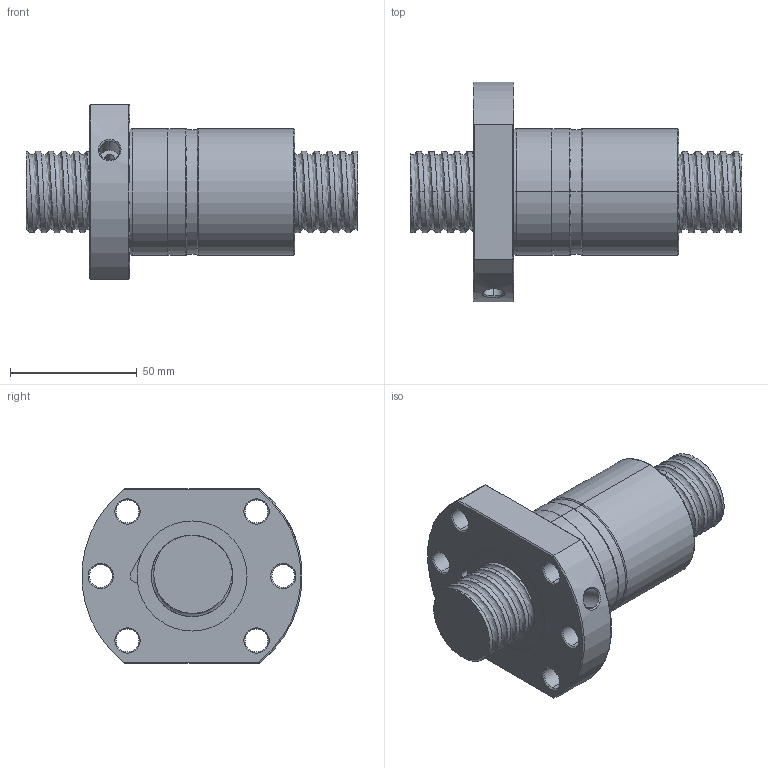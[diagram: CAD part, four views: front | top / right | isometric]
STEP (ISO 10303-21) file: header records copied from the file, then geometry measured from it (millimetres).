
FILE_DESCRIPTION (( 'STEP AP214' ), '1' );
FILE_NAME ('FDDC03205T4-C-C.STEP', '2010-07-06T03:19:07', ( 'XPAUTO' ), ( 'XPAUTO' ), 'SwSTEP 2.0', 'SolidWorks 2007', '' );
FILE_SCHEMA (( 'AUTOMOTIVE_DESIGN' ));
Length unit declared in the file: millimetre
Products named in the file (3): FDDC03205T4-C-C; FDDC03205T4-C-C.sldasm-Part-2_預設; FDDC03205T4-C-C.sldasm-Part-1_預設
Assembly tree (2 placements, depth 2):
  FDDC03205T4-C-C
    FDDC03205T4-C-C.sldasm-Part-2_預設
    FDDC03205T4-C-C.sldasm-Part-1_預設
Bounding box: 131 x 86.7 x 69 mm (x, y, z)
Volume: 236009 mm3; surface area: 51932.2 mm2
Topology: 2 solids, 2 shells, 156 faces, 398 edges, 251 vertices
Faces by surface type: cylinder 97, cone 24, plane 22, torus 8, bspline 5
Entity records: 46612 total; most frequent: CARTESIAN_POINT 42929, ORIENTED_EDGE 796, DIRECTION 688, EDGE_CURVE 398, AXIS2_PLACEMENT_3D 275, VERTEX_POINT 251, EDGE_LOOP 177, ADVANCED_FACE 156
